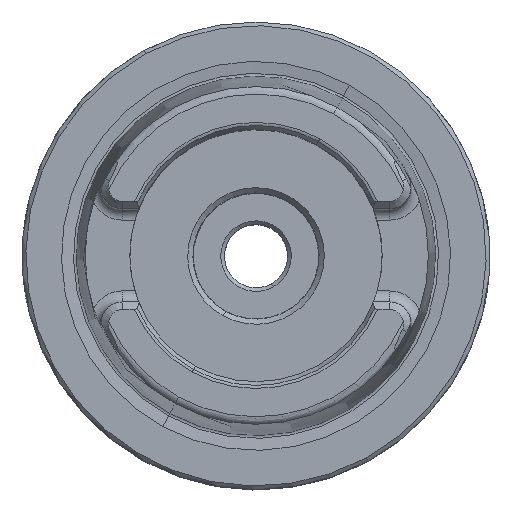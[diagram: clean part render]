
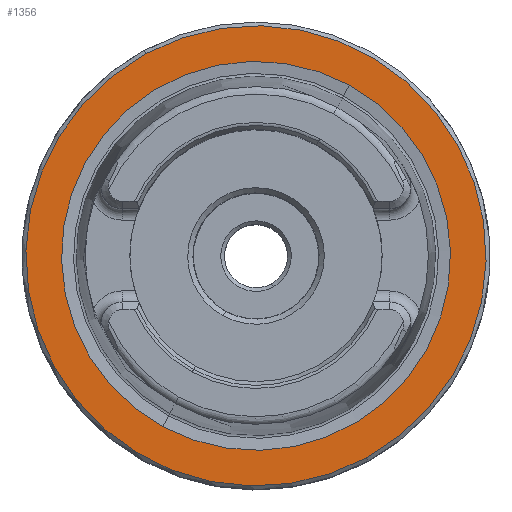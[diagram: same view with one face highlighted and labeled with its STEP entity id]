
A CAD part, top view. The second image highlights one B-rep face of the part: STEP entity #1356.
In plain terms, the highlighted planar face has unit normal (0, 0, 1).
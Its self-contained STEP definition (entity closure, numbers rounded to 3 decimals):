
#1300=AXIS2_PLACEMENT_3D('Circle Axis2P3D',#1298,#1299,$) ;
#1327=AXIS2_PLACEMENT_3D('Plane Axis2P3D',#1324,#1325,#1326) ;
#1331=AXIS2_PLACEMENT_3D('Circle Axis2P3D',#1329,#1330,$) ;
#1340=AXIS2_PLACEMENT_3D('Circle Axis2P3D',#1338,#1339,$) ;
#1349=AXIS2_PLACEMENT_3D('Circle Axis2P3D',#1347,#1348,$) ;
#1298=CARTESIAN_POINT('Axis2P3D Location',(0.,0.,0.)) ;
#1302=CARTESIAN_POINT('Vertex',(-12.561,-22.993,0.)) ;
#1304=CARTESIAN_POINT('Vertex',(12.561,22.993,0.)) ;
#1324=CARTESIAN_POINT('Axis2P3D Location',(0.,-24.321,0.)) ;
#1329=CARTESIAN_POINT('Axis2P3D Location',(0.,0.,0.)) ;
#1333=CARTESIAN_POINT('Vertex',(14.862,-27.205,0.)) ;
#1335=CARTESIAN_POINT('Vertex',(-14.862,27.205,0.)) ;
#1338=CARTESIAN_POINT('Axis2P3D Location',(0.,0.,0.)) ;
#1347=CARTESIAN_POINT('Axis2P3D Location',(0.,0.,0.)) ;
#1299=DIRECTION('Axis2P3D Direction',(0.,0.,1.)) ;
#1325=DIRECTION('Axis2P3D Direction',(0.,0.,-1.)) ;
#1326=DIRECTION('Axis2P3D XDirection',(-1.,0.,0.)) ;
#1330=DIRECTION('Axis2P3D Direction',(0.,0.,-1.)) ;
#1339=DIRECTION('Axis2P3D Direction',(0.,0.,-1.)) ;
#1348=DIRECTION('Axis2P3D Direction',(0.,0.,-1.)) ;
#1344=ORIENTED_EDGE('',*,*,#1337,.F.) ;
#1345=ORIENTED_EDGE('',*,*,#1342,.F.) ;
#1353=ORIENTED_EDGE('',*,*,#1351,.T.) ;
#1354=ORIENTED_EDGE('',*,*,#1306,.T.) ;
#1355=FACE_BOUND('',#1352,.T.) ;
#1356=ADVANCED_FACE('NO_CUT',(#1346,#1355),#1328,.F.) ;
#1301=CIRCLE('generated circle',#1300,26.2) ;
#1332=CIRCLE('generated circle',#1331,31.) ;
#1341=CIRCLE('generated circle',#1340,31.) ;
#1350=CIRCLE('generated circle',#1349,26.2) ;
#1306=EDGE_CURVE('',#1303,#1305,#1301,.F.) ;
#1337=EDGE_CURVE('',#1334,#1336,#1332,.T.) ;
#1342=EDGE_CURVE('',#1336,#1334,#1341,.T.) ;
#1351=EDGE_CURVE('',#1305,#1303,#1350,.T.) ;
#1343=EDGE_LOOP('',(#1344,#1345)) ;
#1352=EDGE_LOOP('',(#1353,#1354)) ;
#1346=FACE_OUTER_BOUND('',#1343,.T.) ;
#1328=PLANE('',#1327) ;
#1303=VERTEX_POINT('',#1302) ;
#1305=VERTEX_POINT('',#1304) ;
#1334=VERTEX_POINT('',#1333) ;
#1336=VERTEX_POINT('',#1335) ;
